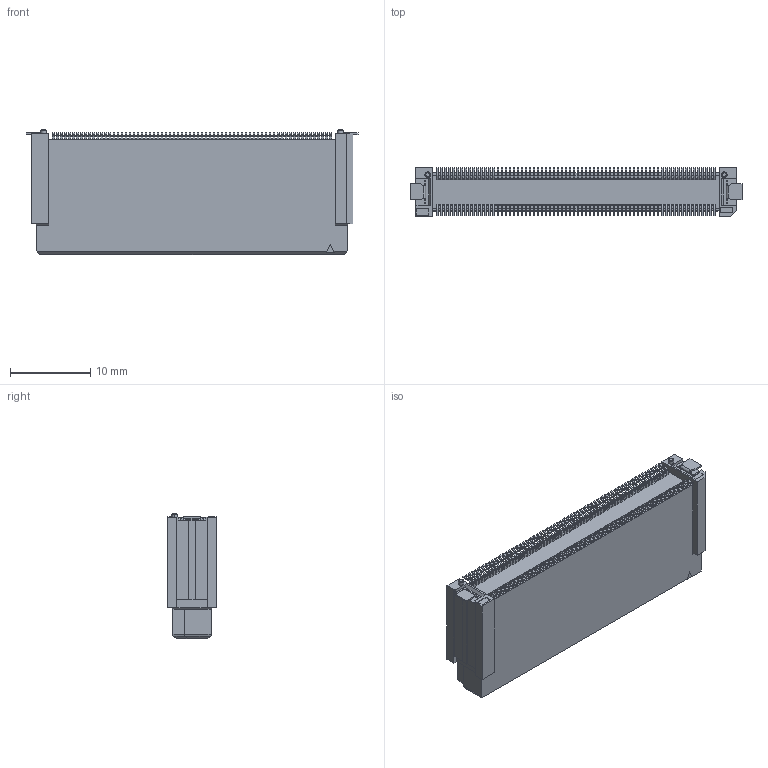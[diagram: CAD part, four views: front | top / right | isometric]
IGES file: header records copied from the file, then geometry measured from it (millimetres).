
Start section: Elysium IGES Interface
Global section: file name: 108HG:\その他\DT関連\【59期以前】\DT_CADﾃﾞｰﾀ\DT_3DCAD(客先提出用)\プラグ\-17\web用\igs\P3D522_DT11-140S-17-T.igs; native system: Creo Elements/Direct Modeling 20.2  28-Feb-2019; preprocessor: Creo Element/Direct IGES_3D V2.2; author: Unknown; organization: Unknown; date: 20220317.155248; units: millimetre
Bounding box: 41.4 x 6.2 x 15.63 mm (x, y, z)
Volume: 2596.8 mm3; surface area: 2314 mm2
Topology: 1 solids, 1 shells, 4233 faces, 11938 edges, 7856 vertices
Faces by surface type: bspline 4233
